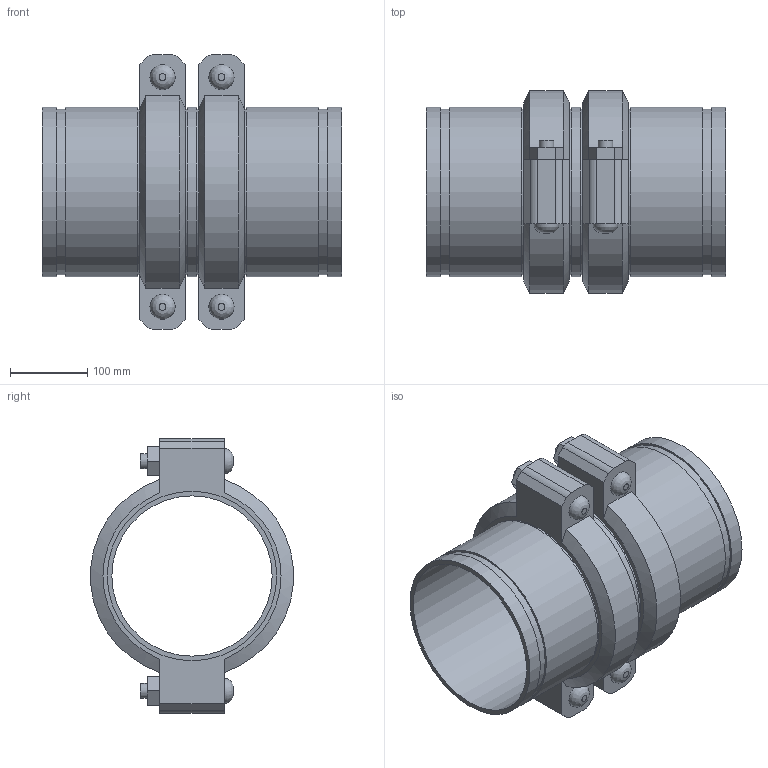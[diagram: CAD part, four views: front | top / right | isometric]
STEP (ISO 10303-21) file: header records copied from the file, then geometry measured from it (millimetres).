
FILE_DESCRIPTION(/* description */ ('VIC EXPANSION JOINT 2 COUPLINGS EXPANDED STYLE 155 (OGS)','CAx-IF Rec.Pracs.---Representation and Presentation of Product Manufacturing Information (PMI)---4.0---2014-10-13'),/* implementation_level */ '2;1');
FILE_NAME(/* name */ 'C:\Users\kkamble\AppData\Roaming\Autodesk\ApplicationPlugins\Victaulic.Temp\A706\Victaulic_IPS_Expansion Joint_Expanded_2 Couplings_Style 155 (OGS)_8 (200).stp',/* time_stamp */ '2021-06-26T23:56:55+02:00',/* author */ ('kkamble'),/* organization */ ('Victaulic'),/* preprocessor_version */ 'ST-DEVELOPER v17.2',/* originating_system */ 'Autodesk Inventor 2019',/* authorisation */ '');
FILE_SCHEMA (('AP242_MANAGED_MODEL_BASED_3D_ENGINEERING_MIM_LF { 1 0 10303 442 1 1 4 }'));
Length unit declared in the file: inch
Products named in the file (4): 155-08.0; Nipple-08.0; Nipple-08.0_1; 075-08.0
Assembly tree (5 placements, depth 2):
  155-08.0
    Nipple-08.0  x2
    Nipple-08.0_1
    075-08.0  x2
Bounding box: 387.35 x 261.72 x 354.84 mm (x, y, z)
Volume: 4211951 mm3; surface area: 894784.9 mm2
Topology: 5 solids, 9 shells, 150 faces, 356 edges, 252 vertices
Faces by surface type: plane 90, cylinder 48, cone 8, bspline 4
Full cylindrical faces by diameter (mm): 19.05 x8, 21.209 x4, 206.985 x3, 212.725 x2, 214.401 x6, 219.075 x13
Entity records: 2753 total; most frequent: CARTESIAN_POINT 489, DIRECTION 453, ORIENTED_EDGE 386, EDGE_CURVE 193, AXIS2_PLACEMENT_3D 180, VERTEX_POINT 138, EDGE_LOOP 107, LINE 93
